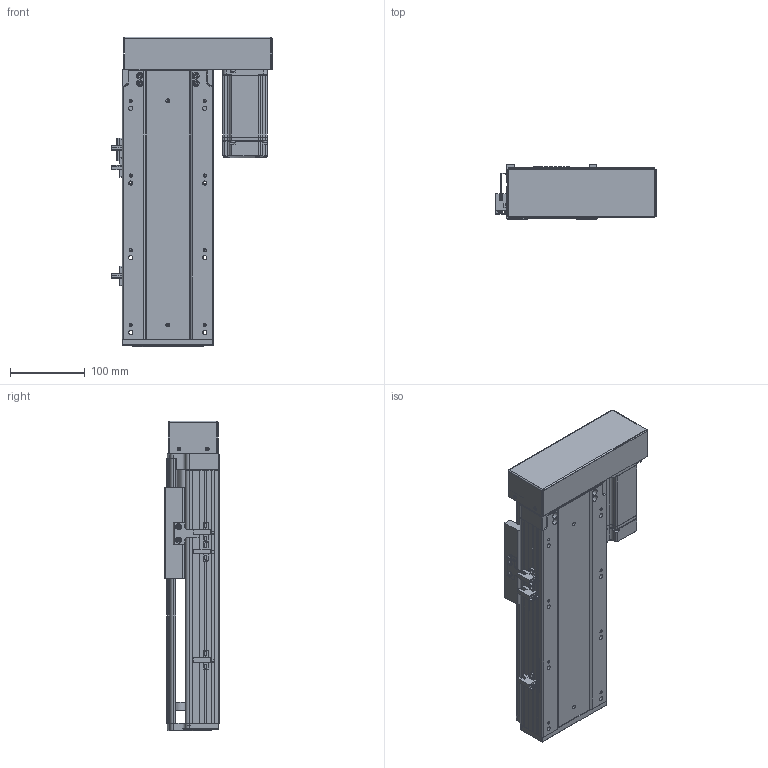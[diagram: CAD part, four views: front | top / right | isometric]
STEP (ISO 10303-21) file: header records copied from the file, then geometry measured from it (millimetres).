
FILE_DESCRIPTION (( 'STEP AP203' ), '1' );
FILE_NAME ('RY120-L1620-300-RK.SLDASM_150.step', '2021-02-22T02:29:28', ( '盈信电脑' ), ( '东莞市道滘镇水果街19号' ), 'SwSTEP 2.0', 'SolidWorks 2012', '' );
FILE_SCHEMA (( 'CONFIG_CONTROL_DESIGN' ));
Products named in the file (14): RY120-300-RK蛌殏倰第奻裔啣_150; RY120-300-RK蛌殏倰第菁釱_150; RY120-L1620-300-RK.SLDASM_150; 侂狟400W侜督萇儂; RY120蛌殏萇儂欶; 15; RY120酘殏萇儂假蚾啣; RY120外置感应片(140共用）; RY120转拆电端丝杆支撑座; 滅袉蝶18-24; 覜茼ん672; 滅袉蝶18-10; RY120綴裔啣; RY120臏賑輸
Assembly tree (16 placements, depth 3):
  RY120-L1620-300-RK.SLDASM_150
    RY120-300-RK蛌殏倰第菁釱_150
    RY120-300-RK蛌殏倰第奻裔啣_150
    RY120臏賑輸
    RY120綴裔啣
    覜茼ん672  x3
    滅袉蝶18-10
    滅袉蝶18-24  x2
    RY120外置感应片(140共用）
    RY120转拆电端丝杆支撑座
    RY120酘殏萇儂假蚾啣
    侂狟400W侜督萇儂
      15
    RY120蛌殏萇儂欶
Bounding box: 214.4 x 73 x 414 mm (x, y, z)
Volume: 1729067.9 mm3; surface area: 577192.4 mm2
Topology: 16 solids, 16 shells, 2218 faces, 6059 edges, 3896 vertices
Faces by surface type: plane 1186, cylinder 762, cone 165, bspline 105
Entity records: 72268 total; most frequent: CARTESIAN_POINT 19741, ORIENTED_EDGE 10902, DIRECTION 10139, EDGE_CURVE 5451, VERTEX_POINT 3564, VECTOR 3517, LINE 3517, AXIS2_PLACEMENT_3D 3311
